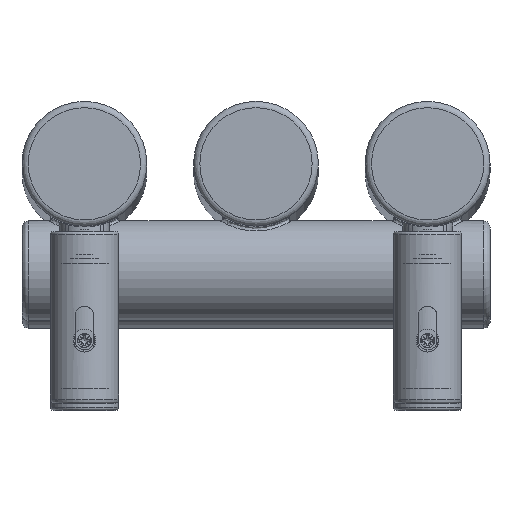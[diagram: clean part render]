
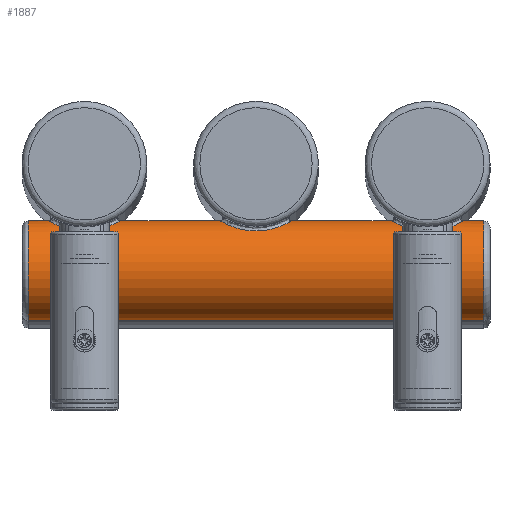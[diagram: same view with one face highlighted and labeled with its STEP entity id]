
A CAD part, top view. The second image highlights one B-rep face of the part: STEP entity #1887.
In plain terms, the highlighted cylindrical face has radius 16 mm (diameter 32 mm), a full revolution.
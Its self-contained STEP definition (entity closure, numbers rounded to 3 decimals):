
#163=FACE_BOUND('',#495,.T.);
#164=FACE_BOUND('',#496,.T.);
#165=FACE_BOUND('',#497,.T.);
#184=LINE('',#3954,#256);
#256=VECTOR('',#2366,16.);
#328=CYLINDRICAL_SURFACE('',#2066,16.);
#361=FACE_OUTER_BOUND('',#494,.T.);
#494=EDGE_LOOP('',(#1345,#1346,#1347,#1348));
#495=EDGE_LOOP('',(#1349));
#496=EDGE_LOOP('',(#1350));
#497=EDGE_LOOP('',(#1351));
#636=B_SPLINE_CURVE_WITH_KNOTS('',3,(#3932,#3933,#3934,#3935,#3936,#3937,
#3938,#3939,#3940,#3941,#3942,#3943,#3944,#3945,#3946,#3947,#3948,#3949),
 .UNSPECIFIED.,.T.,.F.,(4,1,1,1,1,1,1,1,1,1,1,1,1,1,1,4),(0.,0.367,
0.733,1.1,1.466,1.955,2.199,
2.444,2.933,3.177,3.421,3.666,
3.91,4.399,4.765,5.132),
 .UNSPECIFIED.);
#637=B_SPLINE_CURVE_WITH_KNOTS('',3,(#3957,#3958,#3959,#3960,#3961,#3962,
#3963,#3964,#3965,#3966,#3967,#3968,#3969,#3970,#3971,#3972,#3973,#3974),
 .UNSPECIFIED.,.T.,.F.,(4,1,1,1,1,1,1,1,1,1,1,1,1,1,1,4),(0.,0.367,
0.733,1.1,1.466,1.955,2.199,
2.444,2.933,3.177,3.421,3.666,
3.91,4.399,4.765,5.132),
 .UNSPECIFIED.);
#638=B_SPLINE_CURVE_WITH_KNOTS('',3,(#3976,#3977,#3978,#3979,#3980,#3981,
#3982,#3983,#3984,#3985,#3986,#3987,#3988,#3989,#3990,#3991,#3992,#3993,
#3994,#3995,#3996,#3997,#3998,#3999,#4000),.UNSPECIFIED.,.T.,.F.,(4,1,1,
1,1,1,1,1,1,1,1,1,1,1,1,1,1,1,1,1,1,1,4),(0.,0.367,0.733,
1.1,1.283,1.466,1.711,1.955,
2.077,2.199,2.444,2.933,3.177,
3.421,3.666,3.788,3.91,4.154,
4.277,4.338,4.399,4.765,5.132),
 .UNSPECIFIED.);
#687=CIRCLE('',#2067,16.);
#688=CIRCLE('',#2068,16.);
#837=VERTEX_POINT('',#3930);
#838=VERTEX_POINT('',#3951);
#839=VERTEX_POINT('',#3953);
#840=VERTEX_POINT('',#3956);
#841=VERTEX_POINT('',#3975);
#1041=EDGE_CURVE('',#837,#837,#636,.T.);
#1042=EDGE_CURVE('',#838,#838,#687,.T.);
#1043=EDGE_CURVE('',#838,#839,#184,.T.);
#1044=EDGE_CURVE('',#839,#839,#688,.T.);
#1045=EDGE_CURVE('',#840,#840,#637,.T.);
#1046=EDGE_CURVE('',#841,#841,#638,.T.);
#1345=ORIENTED_EDGE('',*,*,#1042,.F.);
#1346=ORIENTED_EDGE('',*,*,#1043,.T.);
#1347=ORIENTED_EDGE('',*,*,#1044,.F.);
#1348=ORIENTED_EDGE('',*,*,#1043,.F.);
#1349=ORIENTED_EDGE('',*,*,#1045,.F.);
#1350=ORIENTED_EDGE('',*,*,#1046,.F.);
#1351=ORIENTED_EDGE('',*,*,#1041,.F.);
#1887=ADVANCED_FACE('',(#361,#163,#164,#165),#328,.T.);
#2066=AXIS2_PLACEMENT_3D('',#3950,#2362,#2363);
#2067=AXIS2_PLACEMENT_3D('',#3952,#2364,#2365);
#2068=AXIS2_PLACEMENT_3D('',#3955,#2367,#2368);
#2362=DIRECTION('center_axis',(-1.,0.,0.));
#2363=DIRECTION('ref_axis',(0.,0.,1.));
#2364=DIRECTION('center_axis',(-1.,0.,0.));
#2365=DIRECTION('ref_axis',(0.,0.,1.));
#2366=DIRECTION('',(1.,0.,0.));
#2367=DIRECTION('center_axis',(1.,0.,0.));
#2368=DIRECTION('ref_axis',(0.,0.,1.));
#3930=CARTESIAN_POINT('',(-110.,-21.257,1454.676));
#3932=CARTESIAN_POINT('Ctrl Pts',(-110.,-21.257,1454.676));
#3933=CARTESIAN_POINT('Ctrl Pts',(-108.333,-21.257,1454.676));
#3934=CARTESIAN_POINT('Ctrl Pts',(-104.998,-20.862,1454.186));
#3935=CARTESIAN_POINT('Ctrl Pts',(-100.822,-19.32,1451.732));
#3936=CARTESIAN_POINT('Ctrl Pts',(-98.543,-17.947,1447.499));
#3937=CARTESIAN_POINT('Ctrl Pts',(-98.525,-17.943,1441.936));
#3938=CARTESIAN_POINT('Ctrl Pts',(-101.229,-19.554,1437.874));
#3939=CARTESIAN_POINT('Ctrl Pts',(-105.077,-20.767,1435.98));
#3940=CARTESIAN_POINT('Ctrl Pts',(-109.395,-21.458,1435.071));
#3941=CARTESIAN_POINT('Ctrl Pts',(-113.972,-21.079,1435.505));
#3942=CARTESIAN_POINT('Ctrl Pts',(-117.797,-19.859,1437.413));
#3943=CARTESIAN_POINT('Ctrl Pts',(-119.989,-18.831,1439.665));
#3944=CARTESIAN_POINT('Ctrl Pts',(-121.247,-18.084,1442.577));
#3945=CARTESIAN_POINT('Ctrl Pts',(-121.602,-17.836,1446.907));
#3946=CARTESIAN_POINT('Ctrl Pts',(-119.645,-19.134,1451.468));
#3947=CARTESIAN_POINT('Ctrl Pts',(-114.999,-20.872,1454.179));
#3948=CARTESIAN_POINT('Ctrl Pts',(-111.667,-21.257,1454.676));
#3949=CARTESIAN_POINT('Ctrl Pts',(-110.,-21.257,1454.676));
#3950=CARTESIAN_POINT('Origin',(20.,-34.,1445.));
#3951=CARTESIAN_POINT('',(-128.,-34.,1429.));
#3952=CARTESIAN_POINT('Origin',(-128.,-34.,1445.));
#3953=CARTESIAN_POINT('',(18.,-34.,1429.));
#3954=CARTESIAN_POINT('',(20.,-34.,1429.));
#3955=CARTESIAN_POINT('Origin',(18.,-34.,1445.));
#3956=CARTESIAN_POINT('',(-55.,-21.257,1454.676));
#3957=CARTESIAN_POINT('Ctrl Pts',(-55.,-21.257,1454.676));
#3958=CARTESIAN_POINT('Ctrl Pts',(-53.333,-21.257,1454.676));
#3959=CARTESIAN_POINT('Ctrl Pts',(-49.998,-20.862,1454.186));
#3960=CARTESIAN_POINT('Ctrl Pts',(-45.822,-19.32,1451.732));
#3961=CARTESIAN_POINT('Ctrl Pts',(-43.543,-17.947,1447.499));
#3962=CARTESIAN_POINT('Ctrl Pts',(-43.525,-17.943,1441.936));
#3963=CARTESIAN_POINT('Ctrl Pts',(-46.229,-19.554,1437.874));
#3964=CARTESIAN_POINT('Ctrl Pts',(-50.077,-20.767,1435.98));
#3965=CARTESIAN_POINT('Ctrl Pts',(-54.395,-21.458,1435.071));
#3966=CARTESIAN_POINT('Ctrl Pts',(-58.972,-21.079,1435.505));
#3967=CARTESIAN_POINT('Ctrl Pts',(-62.798,-19.859,1437.413));
#3968=CARTESIAN_POINT('Ctrl Pts',(-64.989,-18.831,1439.665));
#3969=CARTESIAN_POINT('Ctrl Pts',(-66.247,-18.084,1442.577));
#3970=CARTESIAN_POINT('Ctrl Pts',(-66.602,-17.836,1446.907));
#3971=CARTESIAN_POINT('Ctrl Pts',(-64.645,-19.134,1451.468));
#3972=CARTESIAN_POINT('Ctrl Pts',(-59.999,-20.872,1454.179));
#3973=CARTESIAN_POINT('Ctrl Pts',(-56.667,-21.257,1454.676));
#3974=CARTESIAN_POINT('Ctrl Pts',(-55.,-21.257,1454.676));
#3975=CARTESIAN_POINT('',(0.,-21.257,1454.676));
#3976=CARTESIAN_POINT('Ctrl Pts',(0.,-21.257,
1454.676));
#3977=CARTESIAN_POINT('Ctrl Pts',(1.667,-21.257,1454.676));
#3978=CARTESIAN_POINT('Ctrl Pts',(5.005,-20.862,1454.184));
#3979=CARTESIAN_POINT('Ctrl Pts',(9.172,-19.323,1451.732));
#3980=CARTESIAN_POINT('Ctrl Pts',(11.085,-18.177,1448.197));
#3981=CARTESIAN_POINT('Ctrl Pts',(11.461,-17.94,1445.));
#3982=CARTESIAN_POINT('Ctrl Pts',(11.146,-18.139,1442.337));
#3983=CARTESIAN_POINT('Ctrl Pts',(9.987,-18.832,1439.662));
#3984=CARTESIAN_POINT('Ctrl Pts',(8.162,-19.688,1437.79));
#3985=CARTESIAN_POINT('Ctrl Pts',(6.363,-20.315,1436.696));
#3986=CARTESIAN_POINT('Ctrl Pts',(4.387,-20.85,1435.862));
#3987=CARTESIAN_POINT('Ctrl Pts',(0.602,-21.46,1435.076));
#3988=CARTESIAN_POINT('Ctrl Pts',(-3.97,-21.079,1435.503));
#3989=CARTESIAN_POINT('Ctrl Pts',(-7.799,-19.86,1437.414));
#3990=CARTESIAN_POINT('Ctrl Pts',(-9.986,-18.833,1439.665));
#3991=CARTESIAN_POINT('Ctrl Pts',(-11.04,-18.204,1442.095));
#3992=CARTESIAN_POINT('Ctrl Pts',(-11.377,-17.994,1444.199));
#3993=CARTESIAN_POINT('Ctrl Pts',(-11.378,-17.993,1446.338));
#3994=CARTESIAN_POINT('Ctrl Pts',(-10.87,-18.315,1448.423));
#3995=CARTESIAN_POINT('Ctrl Pts',(-9.996,-18.797,1450.026));
#3996=CARTESIAN_POINT('Ctrl Pts',(-9.382,-19.106,1450.86));
#3997=CARTESIAN_POINT('Ctrl Pts',(-8.011,-19.754,1452.412));
#3998=CARTESIAN_POINT('Ctrl Pts',(-5.007,-20.856,1454.184));
#3999=CARTESIAN_POINT('Ctrl Pts',(-1.667,-21.257,1454.676));
#4000=CARTESIAN_POINT('Ctrl Pts',(0.,-21.257,
1454.676));
